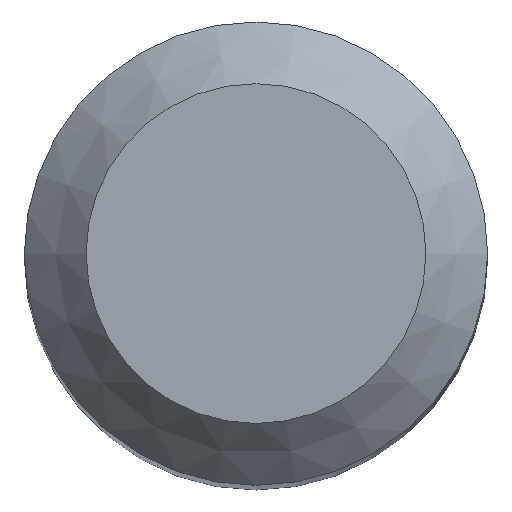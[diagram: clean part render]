
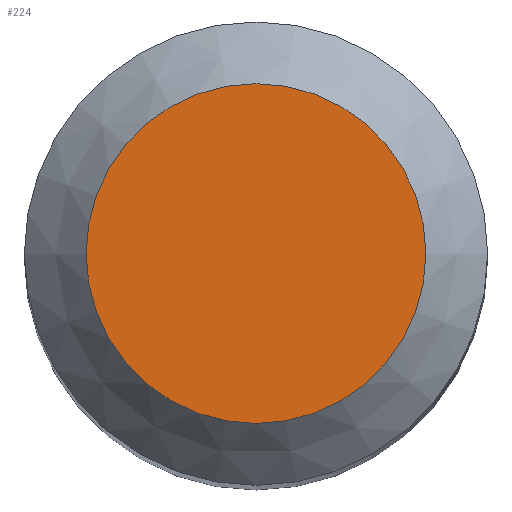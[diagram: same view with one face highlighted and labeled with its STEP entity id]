
A CAD part, top view. The second image highlights one B-rep face of the part: STEP entity #224.
In plain terms, the highlighted planar face has unit normal (0, 0, 1).
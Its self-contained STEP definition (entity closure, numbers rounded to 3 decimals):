
#204=CARTESIAN_POINT('',(-2.2,0.,50.));
#205=VERTEX_POINT('',#204);
#206=CARTESIAN_POINT('',(0.,0.,50.));
#207=DIRECTION('',(0.,0.0,-1.0));
#208=DIRECTION('',(-1.0,0.0,0.));
#209=AXIS2_PLACEMENT_3D('',#206,#207,#208);
#210=CIRCLE('',#209,2.2);
#211=EDGE_CURVE('',#205,#205,#210,.T.);
#216=CARTESIAN_POINT('',(0.,0.,50.));
#217=DIRECTION('',(0.,0.0,-1.0));
#218=DIRECTION('',(-1.0,0.0,0.));
#219=AXIS2_PLACEMENT_3D('',#216,#217,#218);
#220=PLANE('',#219);
#221=ORIENTED_EDGE('',*,*,#211,.F.);
#222=EDGE_LOOP('',(#221));
#223=FACE_OUTER_BOUND('',#222,.T.);
#224=ADVANCED_FACE('',(#223),#220,.F.);
